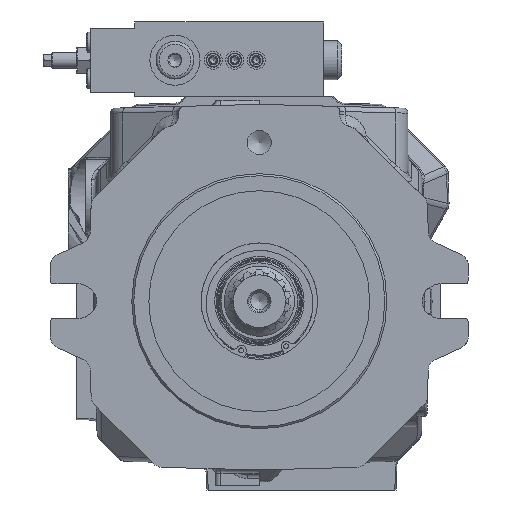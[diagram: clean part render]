
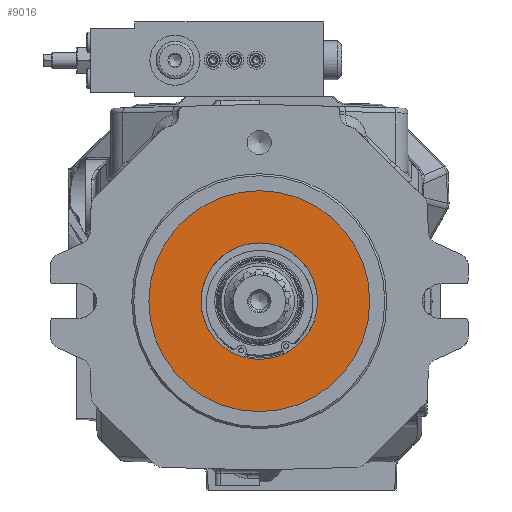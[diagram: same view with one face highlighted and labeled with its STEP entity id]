
A CAD part, front view. The second image highlights one B-rep face of the part: STEP entity #9016.
In plain terms, the highlighted planar face has unit normal (0, -1, 0).
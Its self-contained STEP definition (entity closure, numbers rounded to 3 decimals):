
#9016=ADVANCED_FACE('',(#11274,#11275),#10362,.F.);
#10362=PLANE('',#34660);
#11274=FACE_BOUND('',#13292,.T.);
#11275=FACE_BOUND('',#13293,.T.);
#13292=EDGE_LOOP('',(#19433));
#13293=EDGE_LOOP('',(#19434));
#19433=ORIENTED_EDGE('',*,*,#28873,.F.);
#19434=ORIENTED_EDGE('',*,*,#28870,.F.);
#25042=VERTEX_POINT('',#54950);
#25044=VERTEX_POINT('',#54957);
#28870=EDGE_CURVE('',#25042,#25042,#31719,.T.);
#28873=EDGE_CURVE('',#25044,#25044,#31722,.T.);
#31719=CIRCLE('',#34654,29.);
#31722=CIRCLE('',#34659,55.);
#34654=AXIS2_PLACEMENT_3D('',#54949,#41616,#41617);
#34659=AXIS2_PLACEMENT_3D('',#54956,#41626,#41627);
#34660=AXIS2_PLACEMENT_3D('',#54958,#41628,#41629);
#41616=DIRECTION('',(0.,-1.,0.));
#41617=DIRECTION('',(0.,0.,-1.));
#41626=DIRECTION('',(0.,1.,0.));
#41627=DIRECTION('',(0.,0.,-1.));
#41628=DIRECTION('',(0.,1.,0.));
#41629=DIRECTION('',(0.,0.,-1.));
#54949=CARTESIAN_POINT('',(0.,-11.7,0.));
#54950=CARTESIAN_POINT('',(0.,-11.7,-29.));
#54956=CARTESIAN_POINT('',(0.,-11.7,0.));
#54957=CARTESIAN_POINT('',(0.,-11.7,-55.));
#54958=CARTESIAN_POINT('',(0.,-11.7,0.));
